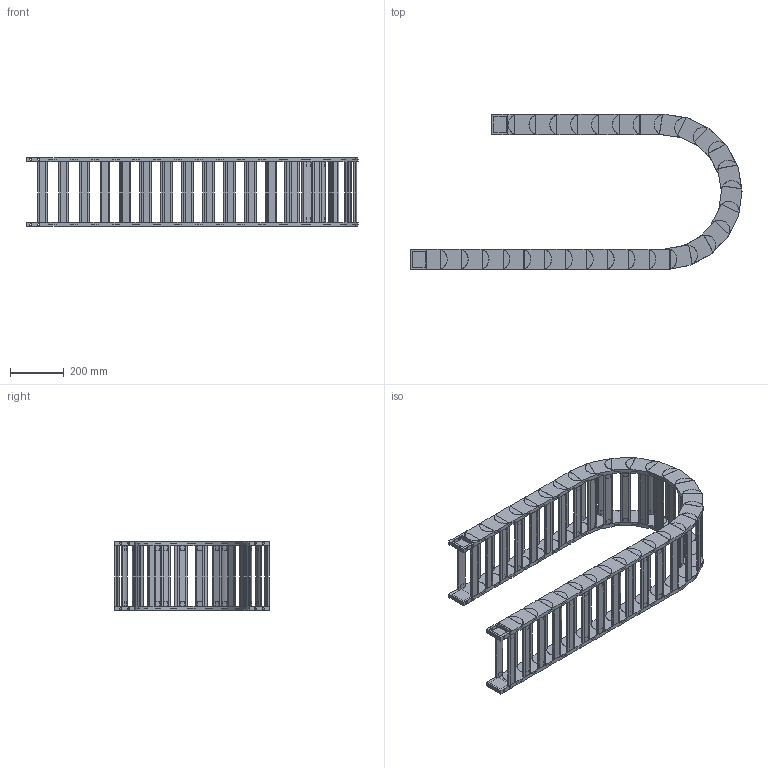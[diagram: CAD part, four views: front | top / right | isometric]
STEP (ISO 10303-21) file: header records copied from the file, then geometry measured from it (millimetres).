
FILE_DESCRIPTION((''),'2;1');
FILE_NAME('HD55-R250-ZPT_ASM','2022-06-17T18:58:45',('admin'),(''),'CREO PARAMETRIC BY PTC INC, 2021164','CREO PARAMETRIC BY PTC INC, 2021164','');
FILE_SCHEMA(('CONFIG_CONTROL_DESIGN','GEOMETRIC_VALIDATION_PROPERTIES_MIM'));
Length unit declared in the file: millimetre
Products named in the file (6): HD-55; 55-500001; HD55_ASM; H55-T1; H55-T2; HD55-R250-ZPT_ASM
Assembly tree (34 placements, depth 3):
  HD55-R250-ZPT_ASM
    HD55_ASM  x28
      HD-55
      55-500001
    H55-T1
    H55-T2
    55-500001  x2
Bounding box: 1233.09 x 575.89 x 257.7 mm (x, y, z)
Volume: 9321756.6 mm3; surface area: 2832874 mm2
Topology: 120 solids, 120 shells, 1982 faces, 5086 edges, 3468 vertices
Faces by surface type: plane 1640, cylinder 342
Entity records: 8831 total; most frequent: CARTESIAN_POINT 1304, DIRECTION 1266, ORIENTED_EDGE 1172, EDGE_CURVE 586, AXIS2_PLACEMENT_3D 424, VECTOR 418, LINE 418, VERTEX_POINT 396
